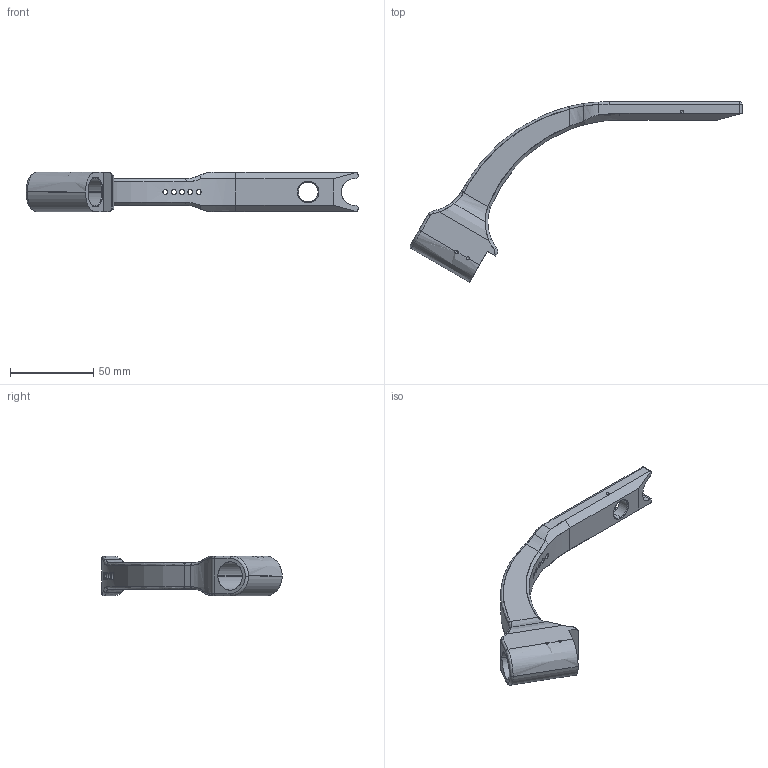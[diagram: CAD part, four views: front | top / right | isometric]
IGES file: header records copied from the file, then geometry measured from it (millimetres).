
Start section: SolidWorks IGES file using analytic representation for surfaces
Global section: file name: C:\Users\e.bondaruk\Desktop\縺 嚦闉鍙酀50.30.1080-00.01.IGS; native system: SolidWorks 2022; preprocessor: SolidWorks 2022; author: e.bondaruk; date: 230210.124431; units: millimetre
Bounding box: 199.95 x 108.71 x 24 mm (x, y, z)
Surface area: 20336.8 mm2 (no closed solid volume)
Topology: 0 solids, 0 shells, 144 faces, 1717 edges, 1708 vertices
Faces by surface type: revolution 83, bspline 61
